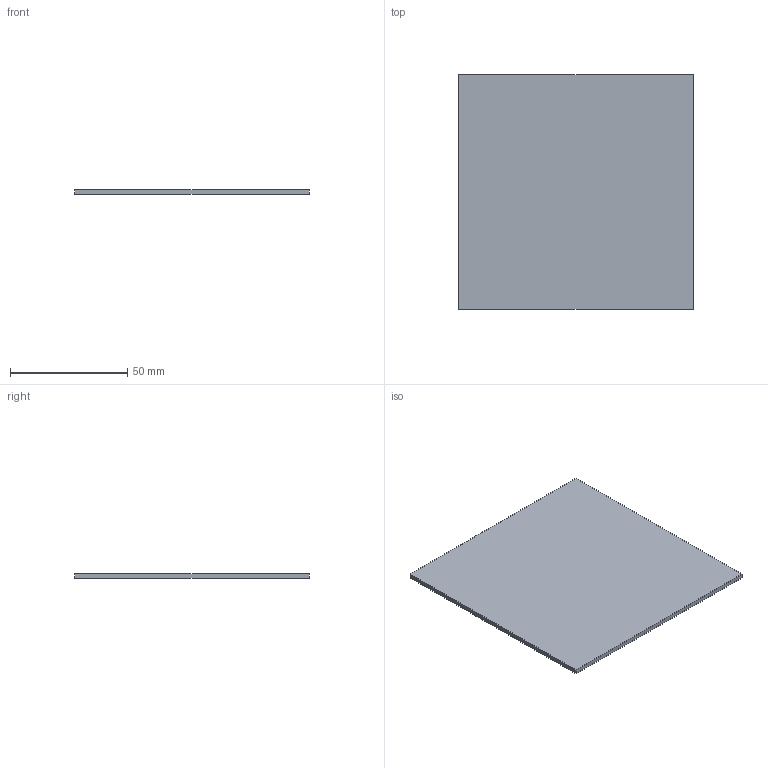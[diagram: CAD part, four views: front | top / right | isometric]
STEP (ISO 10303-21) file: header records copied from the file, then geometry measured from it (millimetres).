
FILE_DESCRIPTION(('FreeCAD Model'),'2;1');
FILE_NAME('Open CASCADE Shape Model','2026-10-10T20:57:57',(''),(''), 'Open CASCADE STEP processor 7.8','FreeCAD','Unknown');
FILE_SCHEMA(('AUTOMOTIVE_DESIGN { 1 0 10303 214 1 1 1 1 }'));
Length unit declared in the file: millimetre
Products named in the file (1): ClearPanel_100x100x2_REFERENCE
Bounding box: 100 x 100 x 2 mm (x, y, z)
Volume: 20000 mm3; surface area: 20800 mm2
Topology: 1 solids, 1 shells, 6 faces, 12 edges, 8 vertices
Faces by surface type: bspline 6
Entity records: 286 total; most frequent: CARTESIAN_POINT 105, B_SPLINE_CURVE_WITH_KNOTS 36, ORIENTED_EDGE 24, PCURVE 24, DEFINITIONAL_REPRESENTATION 24, EDGE_CURVE 12, SURFACE_CURVE 12, VERTEX_POINT 8
